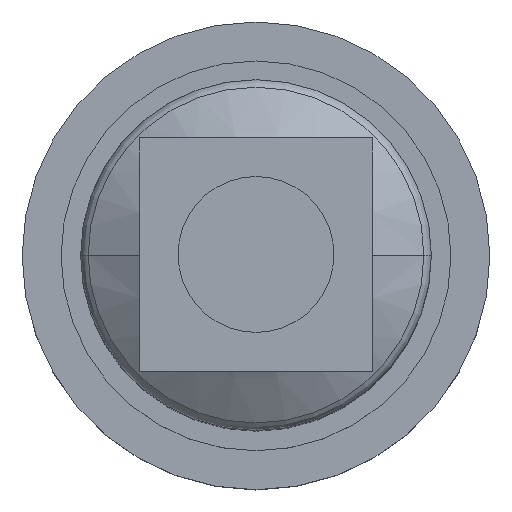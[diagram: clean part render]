
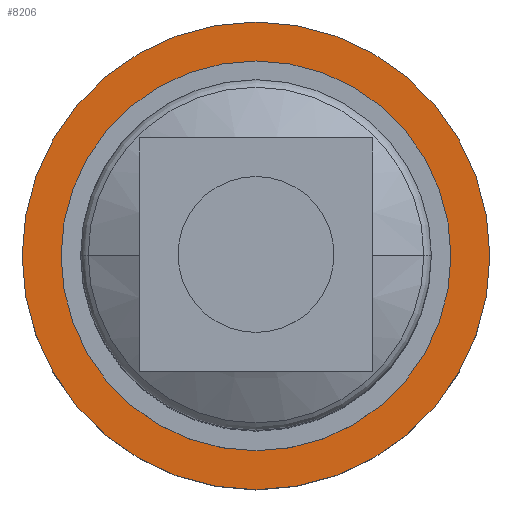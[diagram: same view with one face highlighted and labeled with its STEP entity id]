
A CAD part, top view. The second image highlights one B-rep face of the part: STEP entity #8206.
In plain terms, the highlighted planar face has unit normal (0, 0, 1).
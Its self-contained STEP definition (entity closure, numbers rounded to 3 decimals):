
#126 = ORIENTED_EDGE ( 'NONE', *, *, #7570, .F. ) ;
#537 = CARTESIAN_POINT ( 'NONE',  ( 25., 0., 32. ) ) ;
#556 = ORIENTED_EDGE ( 'NONE', *, *, #3656, .F. ) ;
#865 = DIRECTION ( 'NONE',  ( 0., 0., 1. ) ) ;
#942 = CARTESIAN_POINT ( 'NONE',  ( -30., 0., 32. ) ) ;
#956 = DIRECTION ( 'NONE',  ( 1., 0., 0. ) ) ;
#1418 = AXIS2_PLACEMENT_3D ( 'NONE', #9674, #7261, #5052 ) ;
#2378 = DIRECTION ( 'NONE',  ( 1., 0., 0. ) ) ;
#2412 = FACE_BOUND ( 'NONE', #3060, .T. ) ;
#2605 = VERTEX_POINT ( 'NONE', #942 ) ;
#3060 = EDGE_LOOP ( 'NONE', ( #556, #126 ) ) ;
#3432 = VERTEX_POINT ( 'NONE', #537 ) ;
#3656 = EDGE_CURVE ( 'NONE', #4368, #3432, #7544, .T. ) ;
#3750 = CIRCLE ( 'NONE', #8783, 25. ) ;
#3768 = EDGE_CURVE ( 'NONE', #4162, #2605, #6005, .T. ) ;
#3894 = CARTESIAN_POINT ( 'NONE',  ( 30., 0., 32. ) ) ;
#3942 = CARTESIAN_POINT ( 'NONE',  ( 0., 0., 32. ) ) ;
#3971 = DIRECTION ( 'NONE',  ( 0., 0., 1. ) ) ;
#4162 = VERTEX_POINT ( 'NONE', #3894 ) ;
#4195 = ORIENTED_EDGE ( 'NONE', *, *, #3768, .T. ) ;
#4221 = AXIS2_PLACEMENT_3D ( 'NONE', #8012, #5991, #6753 ) ;
#4368 = VERTEX_POINT ( 'NONE', #5124 ) ;
#4754 = CARTESIAN_POINT ( 'NONE',  ( 0., 0., 32. ) ) ;
#4783 = DIRECTION ( 'NONE',  ( 0., 0., 1. ) ) ;
#4826 = ORIENTED_EDGE ( 'NONE', *, *, #4844, .T. ) ;
#4844 = EDGE_CURVE ( 'NONE', #2605, #4162, #5742, .T. ) ;
#5052 = DIRECTION ( 'NONE',  ( 1., 0., 0. ) ) ;
#5124 = CARTESIAN_POINT ( 'NONE',  ( -25., 0., 32. ) ) ;
#5742 = CIRCLE ( 'NONE', #1418, 30. ) ;
#5991 = DIRECTION ( 'NONE',  ( 0., 0., 1. ) ) ;
#6005 = CIRCLE ( 'NONE', #4221, 30. ) ;
#6488 = FACE_OUTER_BOUND ( 'NONE', #8124, .T. ) ;
#6753 = DIRECTION ( 'NONE',  ( 1., 0., 0. ) ) ;
#6977 = AXIS2_PLACEMENT_3D ( 'NONE', #8593, #3971, #956 ) ;
#7261 = DIRECTION ( 'NONE',  ( 0., 0., 1. ) ) ;
#7544 = CIRCLE ( 'NONE', #8865, 25. ) ;
#7570 = EDGE_CURVE ( 'NONE', #3432, #4368, #3750, .T. ) ;
#7871 = DIRECTION ( 'NONE',  ( 1., 0., 0. ) ) ;
#8012 = CARTESIAN_POINT ( 'NONE',  ( 0., 0., 32. ) ) ;
#8124 = EDGE_LOOP ( 'NONE', ( #4826, #4195 ) ) ;
#8206 = ADVANCED_FACE ( 'NONE', ( #6488, #2412 ), #9404, .T. ) ;
#8593 = CARTESIAN_POINT ( 'NONE',  ( 0., 0., 32. ) ) ;
#8783 = AXIS2_PLACEMENT_3D ( 'NONE', #3942, #865, #2378 ) ;
#8865 = AXIS2_PLACEMENT_3D ( 'NONE', #4754, #4783, #7871 ) ;
#9404 = PLANE ( 'NONE',  #6977 ) ;
#9674 = CARTESIAN_POINT ( 'NONE',  ( 0., 0., 32. ) ) ;
